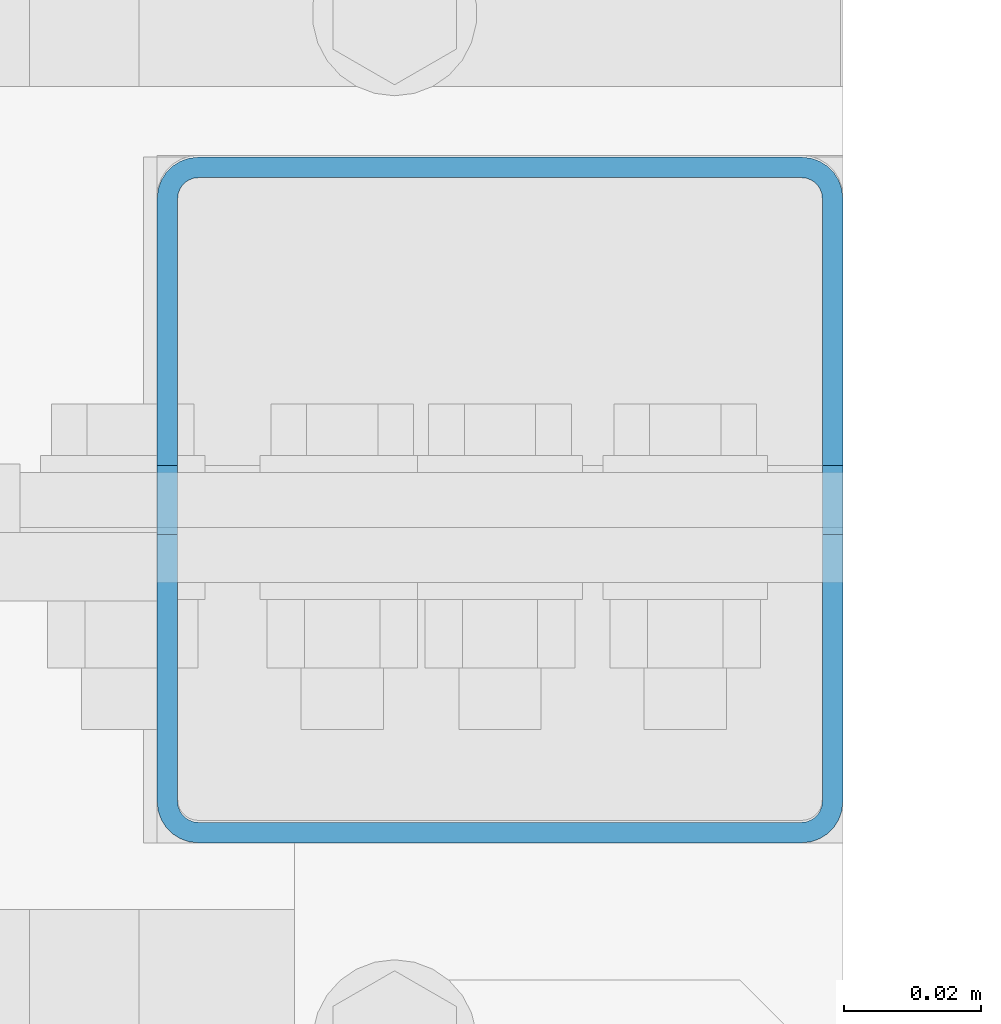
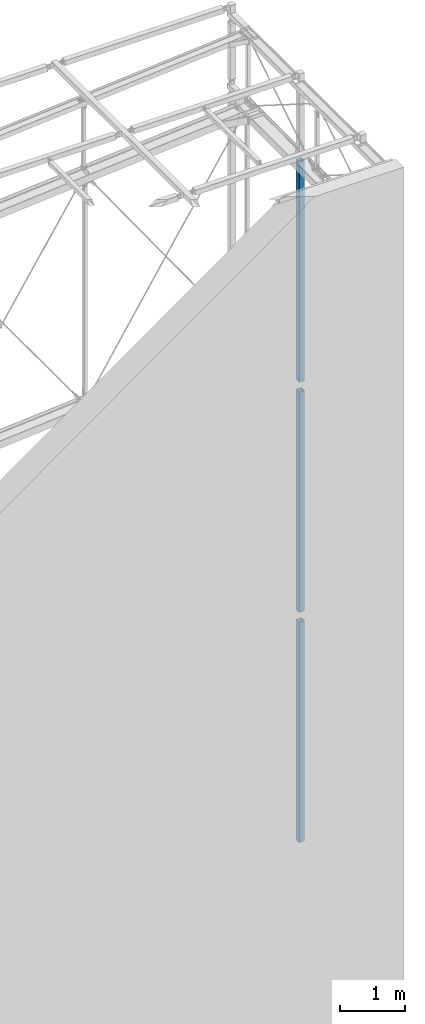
# One storey, part 47 of 271: 3 beams, 3 elements without a shape of their own.
"""IFC2X3 building model written with IfcOpenShell, lengths in millimetres."""

from ifc_helpers import new_model, si_unit, frame, origin_with_axes, origin_2d_with_axis, place, context, subcontext, project, spatial, polyline, hollow_rectangle, outline, extrude, boolean, halfspace, material, type_object, element, aggregate, save


model = new_model("IFC2X3")

# Units and contexts
model_context = context("Model", 3, precision=1e-05, world=origin_with_axes())
body_context = subcontext(model_context, "Body", "Model", "MODEL_VIEW")
ifc_project = project(units=[si_unit("LENGTHUNIT", "METRE", prefix="MILLI"), si_unit("AREAUNIT", "SQUARE_METRE"), si_unit("VOLUMEUNIT", "CUBIC_METRE"), si_unit("MASSUNIT", "GRAM", prefix="KILO"), si_unit("TIMEUNIT", "SECOND"), si_unit("PLANEANGLEUNIT", "RADIAN"), si_unit("SOLIDANGLEUNIT", "STERADIAN"), si_unit("THERMODYNAMICTEMPERATUREUNIT", "DEGREE_CELSIUS"), si_unit("LUMINOUSINTENSITYUNIT", "LUMEN")], contexts=[model_context])

# Site, building, storey
site_placement = place(None, origin_with_axes())
site = spatial("IfcSite", under=ifc_project, at=site_placement, Name="Undefined", CompositionType="ELEMENT")
building_placement = place(site_placement, origin_with_axes())
building = spatial("IfcBuilding", under=site, at=building_placement, Name="Undefined", CompositionType="ELEMENT")
storey_placement = place(building_placement, origin_with_axes())
storey = spatial("IfcBuildingStorey", under=building, at=storey_placement, Name="Undefined", CompositionType="ELEMENT", Elevation=0.0)

# Assembly, beam
assembly_1_placement = place(storey_placement, origin_with_axes())
assembly_1 = element("IfcElementAssembly", 1, at=assembly_1_placement, inside=storey, AssemblyPlace="NOTDEFINED", PredefinedType="RIGID_FRAME")
ifc_material = material(Name="STEEL/S355JR")
beam_type = type_object("IfcBeamType", Name="SHS100*3", PredefinedType="NOTDEFINED")
beam_1_placement = place(assembly_1_placement, frame((12658.3756870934, 2799.05211980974, 14411.8499999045), z_axis=(0.0, 1.0, 0.0), x_axis=(0.0, 0.0, 1.0)))
beam_1 = element("IfcBeam", 2, at=beam_1_placement, type_object=beam_type, material=ifc_material, Name="RYGIEL", ObjectType="SHS100*3", context=body_context, shape_type="CSG", body=[
    boolean("DIFFERENCE", boolean("DIFFERENCE", boolean("DIFFERENCE", extrude(hollow_rectangle(XDim=100.0, YDim=100.0, WallThickness=3.0, InnerFilletRadius=3.0, OuterFilletRadius=6.0, at=origin_2d_with_axis()), frame((4141.0, 0.0, 0.0), z_axis=(-1.0, 0.0, 1.38777878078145e-17), x_axis=(0.0, -1.0, 0.0)), (0.0, 0.0, 1.0), 4141.0), extrude(outline(polyline([(0.0, 40.0), (80.0, 0.0), (151.0, -1.91135995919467e-12), (151.0, 120.0), (91.0, 120.0), (91.0, 150.0), (1.4210854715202e-14, 150.0), (0.0, 40.0)])), frame((4064.0, -99.9999999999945, -4.99999999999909), z_axis=(0.0, 0.0, 1.0), x_axis=(1.0, 0.0, 0.0)), (0.0, 0.0, 1.0), 10.0)), extrude(outline(polyline([(0.0, 40.0), (80.0, 0.0), (151.0, -1.91135995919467e-12), (151.0, 120.0), (91.0, 120.0), (91.0, 150.0), (1.4210854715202e-14, 150.0), (0.0, 40.0)])), frame((81.0000000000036, -99.9999999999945, 5.00000000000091), z_axis=(0.0, 0.0, -1.0), x_axis=(-1.0, 0.0, 1.38777878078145e-17)), (0.0, 0.0, 1.0), 10.0)), halfspace(frame((4.0, 0.0, -50.0), z_axis=(1.0, 0.0, 0.0), x_axis=(0.0, 0.0, 1.0)), True)),
])
aggregate(assembly_1, [beam_1])

assembly_2_placement = place(storey_placement, origin_with_axes())
assembly_2 = element("IfcElementAssembly", 3, at=assembly_2_placement, inside=storey, AssemblyPlace="NOTDEFINED", PredefinedType="RIGID_FRAME")
beam_2_placement = place(assembly_2_placement, frame((12658.3756870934, 2799.05211980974, 10091.8499999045), z_axis=(0.0, 1.0, 0.0), x_axis=(0.0, 0.0, 1.0)))
beam_2 = element("IfcBeam", 4, at=beam_2_placement, type_object=beam_type, material=ifc_material, Name="RYGIEL", ObjectType="SHS100*3", context=body_context, shape_type="CSG", body=[
    boolean("DIFFERENCE", boolean("DIFFERENCE", boolean("DIFFERENCE", extrude(hollow_rectangle(XDim=100.0, YDim=100.0, WallThickness=3.0, InnerFilletRadius=3.0, OuterFilletRadius=6.0, at=origin_2d_with_axis()), frame((4141.0, 0.0, 0.0), z_axis=(-1.0, 0.0, 1.38777878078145e-17), x_axis=(0.0, -1.0, 0.0)), (0.0, 0.0, 1.0), 4141.0), extrude(outline(polyline([(0.0, 40.0), (80.0, 0.0), (151.0, -1.91135995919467e-12), (151.0, 120.0), (91.0, 120.0), (91.0, 150.0), (1.4210854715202e-14, 150.0), (0.0, 40.0)])), frame((4064.0, -99.9999999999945, -4.99999999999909), z_axis=(0.0, 0.0, 1.0), x_axis=(1.0, 0.0, 0.0)), (0.0, 0.0, 1.0), 10.0)), extrude(outline(polyline([(0.0, 40.0), (80.0, 0.0), (151.0, -1.91135995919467e-12), (151.0, 120.0), (91.0, 120.0), (91.0, 150.0), (1.4210854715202e-14, 150.0), (0.0, 40.0)])), frame((81.0000000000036, -99.9999999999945, 5.00000000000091), z_axis=(0.0, 0.0, -1.0), x_axis=(-1.0, 0.0, 1.38777878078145e-17)), (0.0, 0.0, 1.0), 10.0)), halfspace(frame((4.0, 0.0, -50.0), z_axis=(1.0, 0.0, 0.0), x_axis=(0.0, 0.0, 1.0)), True)),
])
aggregate(assembly_2, [beam_2])

assembly_3_placement = place(storey_placement, origin_with_axes())
assembly_3 = element("IfcElementAssembly", 5, at=assembly_3_placement, inside=storey, AssemblyPlace="NOTDEFINED", PredefinedType="RIGID_FRAME")
beam_3_placement = place(assembly_3_placement, frame((12658.3756870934, 2799.05211980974, 5771.84999990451), z_axis=(0.0, 1.0, 0.0), x_axis=(0.0, 0.0, 1.0)))
beam_3 = element("IfcBeam", 6, at=beam_3_placement, type_object=beam_type, material=ifc_material, Name="RYGIEL", ObjectType="SHS100*3", context=body_context, shape_type="CSG", body=[
    boolean("DIFFERENCE", boolean("DIFFERENCE", boolean("DIFFERENCE", extrude(hollow_rectangle(XDim=100.0, YDim=100.0, WallThickness=3.0, InnerFilletRadius=3.0, OuterFilletRadius=6.0, at=origin_2d_with_axis()), frame((4141.0, 0.0, 0.0), z_axis=(-1.0, 0.0, 1.38777878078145e-17), x_axis=(0.0, -1.0, 0.0)), (0.0, 0.0, 1.0), 4141.0), extrude(outline(polyline([(0.0, 40.0), (80.0, 0.0), (151.0, -1.91135995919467e-12), (151.0, 120.0), (91.0, 120.0), (91.0, 150.0), (1.4210854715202e-14, 150.0), (0.0, 40.0)])), frame((4064.0, -99.9999999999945, -4.99999999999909), z_axis=(0.0, 0.0, 1.0), x_axis=(1.0, 0.0, 0.0)), (0.0, 0.0, 1.0), 10.0)), extrude(outline(polyline([(0.0, 40.0), (80.0, 0.0), (151.0, -1.91135995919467e-12), (151.0, 120.0), (91.0, 120.0), (91.0, 150.0), (1.4210854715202e-14, 150.0), (0.0, 40.0)])), frame((81.0000000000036, -99.9999999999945, 5.00000000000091), z_axis=(0.0, 0.0, -1.0), x_axis=(-1.0, 0.0, 1.38777878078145e-17)), (0.0, 0.0, 1.0), 10.0)), halfspace(frame((4.0, 0.0, -50.0), z_axis=(1.0, 0.0, 0.0), x_axis=(0.0, 0.0, 1.0)), True)),
])
aggregate(assembly_3, [beam_3])

save(model, "model.ifc")
